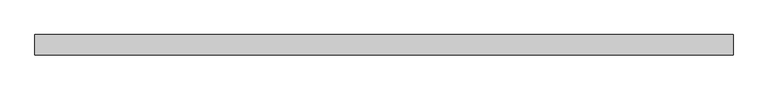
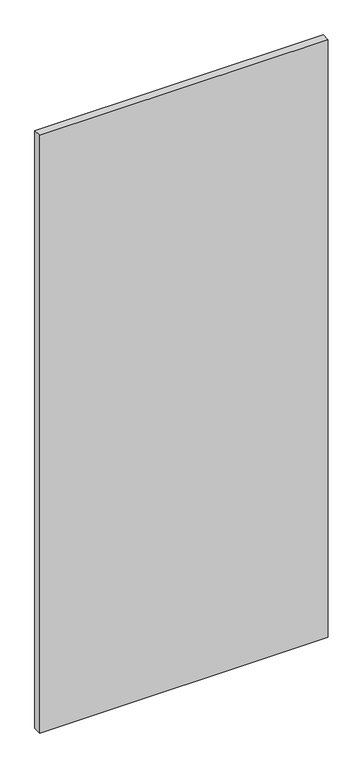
"""IFC4 building model written with IfcOpenShell, lengths in millimetres: plate geometry, Vitré."""

from ifc_helpers import new_model, si_unit, origin, origin_with_axes, place, context, project, spatial, polyline, outline, extrude, source, transform, mapped, element, save


def plate_b06d47c2(model_context):
    return source(origin(), model_context, "Body", "SweptSolid", [
        extrude(outline(polyline([(-691.4124998, -20.0), (-691.4124998, 20.0), (691.4124998, 20.0), (691.4124998, -20.0), (-691.4124998, -20.0)])), origin_with_axes(), (0.0, 0.0, 1.0), 3027.625),
    ])


if __name__ == "__main__":
    model = new_model("IFC4")
    model_context = context("Model", 3, world=origin())
    ifc_project = project(units=[si_unit("LENGTHUNIT", "METRE", prefix="MILLI")], contexts=[model_context])
    site = spatial("IfcSite", under=ifc_project)
    building = spatial("IfcBuilding", under=site)
    placement = place(None, origin())
    plate_shape = plate_b06d47c2(model_context)
    element("IfcPlate", 1, ObjectType="Vitré", at=placement, inside=building, context=model_context, shape_type="MappedRepresentation", body=[
        mapped(plate_shape, transform((0.0, 0.0, 0.0), x_axis=(1.0, 0.0, 0.0), y_axis=(0.0, 1.0, 0.0), z_axis=(0.0, 0.0, 1.0))),
    ])
    save(model, "model.ifc")
